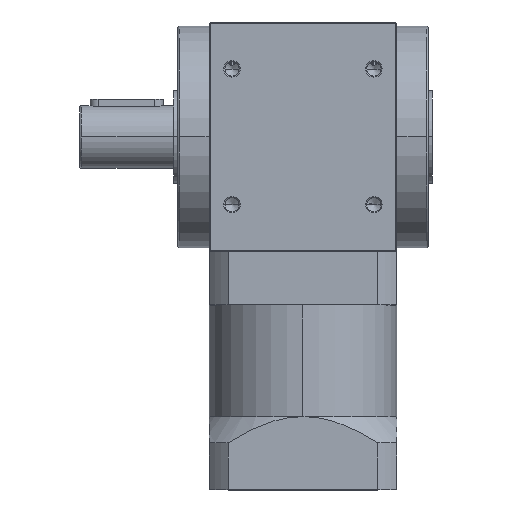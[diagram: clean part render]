
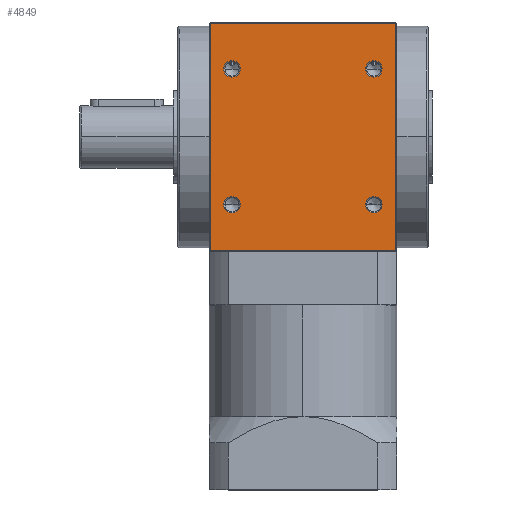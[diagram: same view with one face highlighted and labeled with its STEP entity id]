
A CAD part, top view. The second image highlights one B-rep face of the part: STEP entity #4849.
In plain terms, the highlighted planar face has unit normal (0, 0, 1).
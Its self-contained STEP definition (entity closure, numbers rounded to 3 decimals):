
#19 = DIRECTION ( 'NONE',  ( 0., 0., 1. ) ) ;
#47 = AXIS2_PLACEMENT_3D ( 'NONE', #5484, #762, #6277 ) ;
#53 = CARTESIAN_POINT ( 'NONE',  ( 34., -32.5, 55. ) ) ;
#89 = CARTESIAN_POINT ( 'NONE',  ( 45., -54.5, 55. ) ) ;
#201 = VERTEX_POINT ( 'NONE', #6432 ) ;
#405 = PLANE ( 'NONE',  #2022 ) ;
#440 = DIRECTION ( 'NONE',  ( 0., 1., 0. ) ) ;
#501 = EDGE_CURVE ( 'NONE', #3498, #9680, #3638, .T. ) ;
#706 = VECTOR ( 'NONE', #3340, 1000. ) ;
#720 = DIRECTION ( 'NONE',  ( 0., -1., 0. ) ) ;
#762 = DIRECTION ( 'NONE',  ( 0., 0., 1. ) ) ;
#998 = EDGE_LOOP ( 'NONE', ( #8756, #2493 ) ) ;
#1057 = EDGE_CURVE ( 'NONE', #4628, #5617, #3210, .T. ) ;
#1084 = VECTOR ( 'NONE', #8421, 1000. ) ;
#1260 = CIRCLE ( 'NONE', #2191, 3.9 ) ;
#1327 = CARTESIAN_POINT ( 'NONE',  ( 45., 54.5, 55. ) ) ;
#1355 = VECTOR ( 'NONE', #8610, 1000. ) ;
#1560 = CIRCLE ( 'NONE', #4442, 3.9 ) ;
#1669 = EDGE_LOOP ( 'NONE', ( #5345, #8348 ) ) ;
#1680 = FACE_BOUND ( 'NONE', #5423, .T. ) ;
#1688 = AXIS2_PLACEMENT_3D ( 'NONE', #10167, #5437, #720 ) ;
#1728 = DIRECTION ( 'NONE',  ( 0., 0., 1. ) ) ;
#1753 = EDGE_CURVE ( 'NONE', #2412, #5875, #10202, .T. ) ;
#1788 = EDGE_CURVE ( 'NONE', #5895, #5962, #4209, .T. ) ;
#1790 = ORIENTED_EDGE ( 'NONE', *, *, #9654, .T. ) ;
#1913 = ORIENTED_EDGE ( 'NONE', *, *, #1788, .F. ) ;
#2022 = AXIS2_PLACEMENT_3D ( 'NONE', #9899, #5175, #440 ) ;
#2191 = AXIS2_PLACEMENT_3D ( 'NONE', #6440, #1728, #7221 ) ;
#2235 = CARTESIAN_POINT ( 'NONE',  ( -34., -28.6, 55. ) ) ;
#2239 = ORIENTED_EDGE ( 'NONE', *, *, #1057, .T. ) ;
#2349 = CARTESIAN_POINT ( 'NONE',  ( -44.5, 54.5, 55. ) ) ;
#2412 = VERTEX_POINT ( 'NONE', #9669 ) ;
#2417 = CARTESIAN_POINT ( 'NONE',  ( 44.5, -54.5, 55. ) ) ;
#2426 = CARTESIAN_POINT ( 'NONE',  ( 37.9, -32.5, 55. ) ) ;
#2493 = ORIENTED_EDGE ( 'NONE', *, *, #501, .F. ) ;
#2756 = DIRECTION ( 'NONE',  ( 0., 0., 1. ) ) ;
#2881 = ORIENTED_EDGE ( 'NONE', *, *, #8987, .F. ) ;
#3210 = LINE ( 'NONE', #1327, #1084 ) ;
#3340 = DIRECTION ( 'NONE',  ( 0., -1., 0. ) ) ;
#3470 = EDGE_CURVE ( 'NONE', #4628, #6074, #4923, .T. ) ;
#3498 = VERTEX_POINT ( 'NONE', #9624 ) ;
#3638 = CIRCLE ( 'NONE', #7829, 3.9 ) ;
#3669 = DIRECTION ( 'NONE',  ( 0., 0., 1. ) ) ;
#3790 = FACE_BOUND ( 'NONE', #8747, .T. ) ;
#4092 = CARTESIAN_POINT ( 'NONE',  ( 34., -32.5, 55. ) ) ;
#4182 = LINE ( 'NONE', #89, #5136 ) ;
#4209 = CIRCLE ( 'NONE', #47, 3.9 ) ;
#4294 = CARTESIAN_POINT ( 'NONE',  ( -34., 32.5, 55. ) ) ;
#4301 = AXIS2_PLACEMENT_3D ( 'NONE', #4092, #9585, #7377 ) ;
#4442 = AXIS2_PLACEMENT_3D ( 'NONE', #8362, #3669, #9141 ) ;
#4598 = DIRECTION ( 'NONE',  ( 1., 0., 0. ) ) ;
#4628 = VERTEX_POINT ( 'NONE', #7124 ) ;
#4825 = AXIS2_PLACEMENT_3D ( 'NONE', #4294, #9783, #5062 ) ;
#4849 = ADVANCED_FACE ( 'NONE', ( #1680, #7956, #9822, #3790, #5874 ), #405, .F. ) ;
#4923 = LINE ( 'NONE', #8015, #706 ) ;
#5062 = DIRECTION ( 'NONE',  ( 0., -1., 0. ) ) ;
#5136 = VECTOR ( 'NONE', #5612, 1000. ) ;
#5175 = DIRECTION ( 'NONE',  ( 0., 0., -1. ) ) ;
#5246 = EDGE_CURVE ( 'NONE', #9680, #3498, #5953, .T. ) ;
#5345 = ORIENTED_EDGE ( 'NONE', *, *, #1753, .F. ) ;
#5423 = EDGE_LOOP ( 'NONE', ( #1913, #5934 ) ) ;
#5437 = DIRECTION ( 'NONE',  ( 0., 0., 1. ) ) ;
#5484 = CARTESIAN_POINT ( 'NONE',  ( -34., -32.5, 55. ) ) ;
#5612 = DIRECTION ( 'NONE',  ( 1., 0., 0. ) ) ;
#5616 = EDGE_CURVE ( 'NONE', #5617, #201, #9508, .T. ) ;
#5617 = VERTEX_POINT ( 'NONE', #2349 ) ;
#5874 = FACE_OUTER_BOUND ( 'NONE', #9514, .T. ) ;
#5875 = VERTEX_POINT ( 'NONE', #8482 ) ;
#5895 = VERTEX_POINT ( 'NONE', #9710 ) ;
#5934 = ORIENTED_EDGE ( 'NONE', *, *, #7504, .F. ) ;
#5953 = CIRCLE ( 'NONE', #4301, 3.9 ) ;
#5962 = VERTEX_POINT ( 'NONE', #2235 ) ;
#6074 = VERTEX_POINT ( 'NONE', #2417 ) ;
#6238 = EDGE_CURVE ( 'NONE', #9761, #6301, #6640, .T. ) ;
#6277 = DIRECTION ( 'NONE',  ( 0., -1., 0. ) ) ;
#6301 = VERTEX_POINT ( 'NONE', #7475 ) ;
#6432 = CARTESIAN_POINT ( 'NONE',  ( -44.5, -54.5, 55. ) ) ;
#6440 = CARTESIAN_POINT ( 'NONE',  ( -34., -32.5, 55. ) ) ;
#6640 = CIRCLE ( 'NONE', #4825, 3.9 ) ;
#6694 = EDGE_CURVE ( 'NONE', #5875, #2412, #1560, .T. ) ;
#7124 = CARTESIAN_POINT ( 'NONE',  ( 44.5, 54.5, 55. ) ) ;
#7221 = DIRECTION ( 'NONE',  ( 0., -1., 0. ) ) ;
#7377 = DIRECTION ( 'NONE',  ( 1., 0., 0. ) ) ;
#7438 = CARTESIAN_POINT ( 'NONE',  ( 34., 32.5, 55. ) ) ;
#7448 = ORIENTED_EDGE ( 'NONE', *, *, #3470, .F. ) ;
#7475 = CARTESIAN_POINT ( 'NONE',  ( -34., 28.6, 55. ) ) ;
#7504 = EDGE_CURVE ( 'NONE', #5962, #5895, #1260, .T. ) ;
#7829 = AXIS2_PLACEMENT_3D ( 'NONE', #53, #19, #4598 ) ;
#7956 = FACE_BOUND ( 'NONE', #998, .T. ) ;
#8015 = CARTESIAN_POINT ( 'NONE',  ( 44.5, 0., 55. ) ) ;
#8236 = DIRECTION ( 'NONE',  ( 1., 0., 0. ) ) ;
#8348 = ORIENTED_EDGE ( 'NONE', *, *, #6694, .F. ) ;
#8362 = CARTESIAN_POINT ( 'NONE',  ( 34., 32.5, 55. ) ) ;
#8421 = DIRECTION ( 'NONE',  ( -1., 0., 0. ) ) ;
#8482 = CARTESIAN_POINT ( 'NONE',  ( 30.1, 32.5, 55. ) ) ;
#8553 = ORIENTED_EDGE ( 'NONE', *, *, #6238, .F. ) ;
#8579 = CARTESIAN_POINT ( 'NONE',  ( -44.5, 55., 55. ) ) ;
#8610 = DIRECTION ( 'NONE',  ( 0., -1., 0. ) ) ;
#8680 = ORIENTED_EDGE ( 'NONE', *, *, #5616, .T. ) ;
#8747 = EDGE_LOOP ( 'NONE', ( #2881, #8553 ) ) ;
#8756 = ORIENTED_EDGE ( 'NONE', *, *, #5246, .F. ) ;
#8987 = EDGE_CURVE ( 'NONE', #6301, #9761, #10082, .T. ) ;
#9141 = DIRECTION ( 'NONE',  ( 1., 0., 0. ) ) ;
#9217 = AXIS2_PLACEMENT_3D ( 'NONE', #7438, #2756, #8236 ) ;
#9247 = CARTESIAN_POINT ( 'NONE',  ( -34., 36.4, 55. ) ) ;
#9508 = LINE ( 'NONE', #8579, #1355 ) ;
#9514 = EDGE_LOOP ( 'NONE', ( #2239, #8680, #1790, #7448 ) ) ;
#9585 = DIRECTION ( 'NONE',  ( 0., 0., 1. ) ) ;
#9624 = CARTESIAN_POINT ( 'NONE',  ( 30.1, -32.5, 55. ) ) ;
#9654 = EDGE_CURVE ( 'NONE', #201, #6074, #4182, .T. ) ;
#9669 = CARTESIAN_POINT ( 'NONE',  ( 37.9, 32.5, 55. ) ) ;
#9680 = VERTEX_POINT ( 'NONE', #2426 ) ;
#9710 = CARTESIAN_POINT ( 'NONE',  ( -34., -36.4, 55. ) ) ;
#9761 = VERTEX_POINT ( 'NONE', #9247 ) ;
#9783 = DIRECTION ( 'NONE',  ( 0., 0., 1. ) ) ;
#9822 = FACE_BOUND ( 'NONE', #1669, .T. ) ;
#9899 = CARTESIAN_POINT ( 'NONE',  ( 45., 55., 55. ) ) ;
#10082 = CIRCLE ( 'NONE', #1688, 3.9 ) ;
#10167 = CARTESIAN_POINT ( 'NONE',  ( -34., 32.5, 55. ) ) ;
#10202 = CIRCLE ( 'NONE', #9217, 3.9 ) ;
